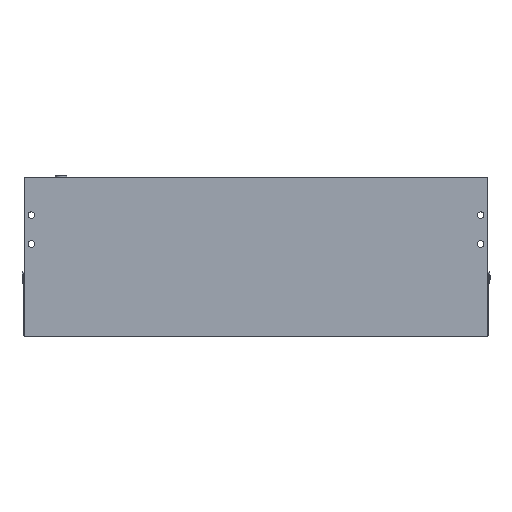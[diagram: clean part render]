
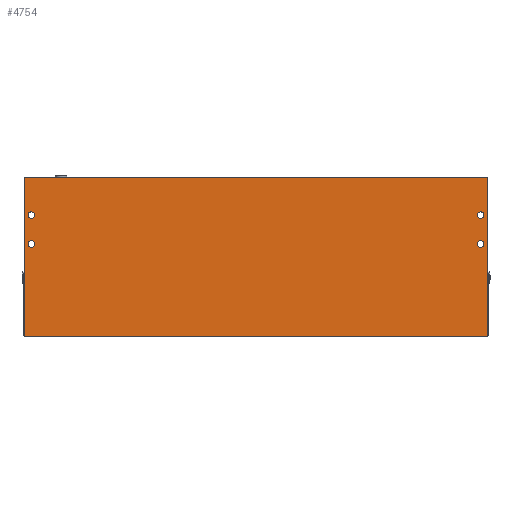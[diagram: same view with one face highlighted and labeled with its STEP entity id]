
A CAD part, front view. The second image highlights one B-rep face of the part: STEP entity #4754.
In plain terms, the highlighted planar face has unit normal (0, -1, 0).
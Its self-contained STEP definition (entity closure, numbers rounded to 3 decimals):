
#117 = CARTESIAN_POINT ( 'NONE',  ( 0., 0., 0. ) ) ;
#770 = LINE ( 'NONE', #5164, #2064 ) ;
#888 = CIRCLE ( 'NONE', #5756, 2.25 ) ;
#1144 = DIRECTION ( 'NONE',  ( 0., 1., 0. ) ) ;
#1321 = VERTEX_POINT ( 'NONE', #8307 ) ;
#1645 = ORIENTED_EDGE ( 'NONE', *, *, #11712, .F. ) ;
#1690 = VERTEX_POINT ( 'NONE', #2545 ) ;
#1730 = FACE_BOUND ( 'NONE', #13627, .T. ) ;
#1869 = AXIS2_PLACEMENT_3D ( 'NONE', #6411, #17883, #4777 ) ;
#2064 = VECTOR ( 'NONE', #17648, 1000. ) ;
#2121 = AXIS2_PLACEMENT_3D ( 'NONE', #117, #4786, #12154 ) ;
#2355 = LINE ( 'NONE', #18508, #15216 ) ;
#2371 = EDGE_CURVE ( 'NONE', #7792, #1690, #14119, .T. ) ;
#2474 = CIRCLE ( 'NONE', #11352, 2.25 ) ;
#2545 = CARTESIAN_POINT ( 'NONE',  ( 315., 0., -28.25 ) ) ;
#2707 = ORIENTED_EDGE ( 'NONE', *, *, #8025, .T. ) ;
#2777 = CIRCLE ( 'NONE', #7667, 2.25 ) ;
#3059 = EDGE_CURVE ( 'NONE', #7149, #10749, #770, .T. ) ;
#3660 = CARTESIAN_POINT ( 'NONE',  ( 320., 0., -110. ) ) ;
#3784 = EDGE_LOOP ( 'NONE', ( #4841, #11137 ) ) ;
#3846 = CARTESIAN_POINT ( 'NONE',  ( 315., 0., -43.75 ) ) ;
#3876 = CARTESIAN_POINT ( 'NONE',  ( 0., 0., -110. ) ) ;
#4109 = AXIS2_PLACEMENT_3D ( 'NONE', #14191, #13125, #15820 ) ;
#4161 = VERTEX_POINT ( 'NONE', #17486 ) ;
#4595 = FACE_BOUND ( 'NONE', #14708, .T. ) ;
#4613 = CARTESIAN_POINT ( 'NONE',  ( 315., 0., -26. ) ) ;
#4754 = ADVANCED_FACE ( 'NONE', ( #10437, #5937, #1730, #4595, #8910 ), #10625, .F. ) ;
#4777 = DIRECTION ( 'NONE',  ( 1., 0., 0. ) ) ;
#4786 = DIRECTION ( 'NONE',  ( 0., 1., 0. ) ) ;
#4841 = ORIENTED_EDGE ( 'NONE', *, *, #5018, .T. ) ;
#5018 = EDGE_CURVE ( 'NONE', #16822, #11642, #17238, .T. ) ;
#5029 = ORIENTED_EDGE ( 'NONE', *, *, #3059, .F. ) ;
#5090 = DIRECTION ( 'NONE',  ( 0., 1., 0. ) ) ;
#5164 = CARTESIAN_POINT ( 'NONE',  ( 0., 0., -110. ) ) ;
#5222 = DIRECTION ( 'NONE',  ( 1., 0., 0. ) ) ;
#5470 = ORIENTED_EDGE ( 'NONE', *, *, #2371, .T. ) ;
#5551 = CARTESIAN_POINT ( 'NONE',  ( 315., 0., -46. ) ) ;
#5732 = EDGE_CURVE ( 'NONE', #9588, #1321, #6371, .T. ) ;
#5756 = AXIS2_PLACEMENT_3D ( 'NONE', #6113, #13010, #14733 ) ;
#5867 = AXIS2_PLACEMENT_3D ( 'NONE', #15141, #5090, #13705 ) ;
#5937 = FACE_BOUND ( 'NONE', #3784, .T. ) ;
#6113 = CARTESIAN_POINT ( 'NONE',  ( 5., 0., -26. ) ) ;
#6238 = CARTESIAN_POINT ( 'NONE',  ( 5., 0., -48.25 ) ) ;
#6250 = DIRECTION ( 'NONE',  ( 0., 1., 0. ) ) ;
#6371 = LINE ( 'NONE', #15363, #12050 ) ;
#6411 = CARTESIAN_POINT ( 'NONE',  ( 5., 0., -46. ) ) ;
#7149 = VERTEX_POINT ( 'NONE', #3876 ) ;
#7153 = AXIS2_PLACEMENT_3D ( 'NONE', #8598, #1144, #15875 ) ;
#7374 = VECTOR ( 'NONE', #9499, 1000. ) ;
#7667 = AXIS2_PLACEMENT_3D ( 'NONE', #4613, #6250, #12081 ) ;
#7772 = AXIS2_PLACEMENT_3D ( 'NONE', #5551, #18838, #11497 ) ;
#7792 = VERTEX_POINT ( 'NONE', #7861 ) ;
#7861 = CARTESIAN_POINT ( 'NONE',  ( 315., 0., -23.75 ) ) ;
#8025 = EDGE_CURVE ( 'NONE', #4161, #18089, #888, .T. ) ;
#8307 = CARTESIAN_POINT ( 'NONE',  ( 320., 0., -110. ) ) ;
#8598 = CARTESIAN_POINT ( 'NONE',  ( 315., 0., -46. ) ) ;
#8910 = FACE_OUTER_BOUND ( 'NONE', #15827, .T. ) ;
#8965 = ORIENTED_EDGE ( 'NONE', *, *, #11463, .T. ) ;
#9116 = CARTESIAN_POINT ( 'NONE',  ( 5., 0., -46. ) ) ;
#9455 = EDGE_CURVE ( 'NONE', #10749, #9588, #2355, .T. ) ;
#9499 = DIRECTION ( 'NONE',  ( -1., 0., 0. ) ) ;
#9588 = VERTEX_POINT ( 'NONE', #17551 ) ;
#9826 = CARTESIAN_POINT ( 'NONE',  ( 0., 0., 0. ) ) ;
#10168 = ORIENTED_EDGE ( 'NONE', *, *, #17339, .T. ) ;
#10172 = CARTESIAN_POINT ( 'NONE',  ( 315., 0., -48.25 ) ) ;
#10227 = ORIENTED_EDGE ( 'NONE', *, *, #9455, .F. ) ;
#10437 = FACE_BOUND ( 'NONE', #18313, .T. ) ;
#10625 = PLANE ( 'NONE',  #2121 ) ;
#10721 = ORIENTED_EDGE ( 'NONE', *, *, #5732, .F. ) ;
#10749 = VERTEX_POINT ( 'NONE', #9826 ) ;
#10935 = LINE ( 'NONE', #3660, #7374 ) ;
#11137 = ORIENTED_EDGE ( 'NONE', *, *, #13332, .T. ) ;
#11352 = AXIS2_PLACEMENT_3D ( 'NONE', #9116, #13709, #17908 ) ;
#11463 = EDGE_CURVE ( 'NONE', #15762, #14892, #2474, .T. ) ;
#11497 = DIRECTION ( 'NONE',  ( 1., 0., 0. ) ) ;
#11556 = EDGE_CURVE ( 'NONE', #1690, #7792, #2777, .T. ) ;
#11642 = VERTEX_POINT ( 'NONE', #3846 ) ;
#11712 = EDGE_CURVE ( 'NONE', #1321, #7149, #10935, .T. ) ;
#12050 = VECTOR ( 'NONE', #16710, 1000. ) ;
#12081 = DIRECTION ( 'NONE',  ( 1., 0., 0. ) ) ;
#12154 = DIRECTION ( 'NONE',  ( 1., 0., 0. ) ) ;
#13010 = DIRECTION ( 'NONE',  ( 0., 1., 0. ) ) ;
#13125 = DIRECTION ( 'NONE',  ( 0., 1., 0. ) ) ;
#13211 = CARTESIAN_POINT ( 'NONE',  ( 5., 0., -43.75 ) ) ;
#13332 = EDGE_CURVE ( 'NONE', #11642, #16822, #15403, .T. ) ;
#13627 = EDGE_LOOP ( 'NONE', ( #2707, #17912 ) ) ;
#13705 = DIRECTION ( 'NONE',  ( 1., 0., 0. ) ) ;
#13709 = DIRECTION ( 'NONE',  ( 0., 1., 0. ) ) ;
#14119 = CIRCLE ( 'NONE', #5867, 2.25 ) ;
#14191 = CARTESIAN_POINT ( 'NONE',  ( 5., 0., -26. ) ) ;
#14708 = EDGE_LOOP ( 'NONE', ( #8965, #10168 ) ) ;
#14733 = DIRECTION ( 'NONE',  ( 1., 0., 0. ) ) ;
#14892 = VERTEX_POINT ( 'NONE', #13211 ) ;
#15141 = CARTESIAN_POINT ( 'NONE',  ( 315., 0., -26. ) ) ;
#15216 = VECTOR ( 'NONE', #5222, 1000. ) ;
#15363 = CARTESIAN_POINT ( 'NONE',  ( 320., 0., 0. ) ) ;
#15403 = CIRCLE ( 'NONE', #7772, 2.25 ) ;
#15496 = EDGE_CURVE ( 'NONE', #18089, #4161, #17851, .T. ) ;
#15762 = VERTEX_POINT ( 'NONE', #6238 ) ;
#15820 = DIRECTION ( 'NONE',  ( 1., 0., 0. ) ) ;
#15827 = EDGE_LOOP ( 'NONE', ( #1645, #10721, #10227, #5029 ) ) ;
#15875 = DIRECTION ( 'NONE',  ( 1., 0., 0. ) ) ;
#16564 = CARTESIAN_POINT ( 'NONE',  ( 5., 0., -23.75 ) ) ;
#16710 = DIRECTION ( 'NONE',  ( 0., 0., -1. ) ) ;
#16822 = VERTEX_POINT ( 'NONE', #10172 ) ;
#16845 = CIRCLE ( 'NONE', #1869, 2.25 ) ;
#17119 = ORIENTED_EDGE ( 'NONE', *, *, #11556, .T. ) ;
#17238 = CIRCLE ( 'NONE', #7153, 2.25 ) ;
#17339 = EDGE_CURVE ( 'NONE', #14892, #15762, #16845, .T. ) ;
#17486 = CARTESIAN_POINT ( 'NONE',  ( 5., 0., -28.25 ) ) ;
#17551 = CARTESIAN_POINT ( 'NONE',  ( 320., 0., 0. ) ) ;
#17648 = DIRECTION ( 'NONE',  ( 0., 0., 1. ) ) ;
#17851 = CIRCLE ( 'NONE', #4109, 2.25 ) ;
#17883 = DIRECTION ( 'NONE',  ( 0., 1., 0. ) ) ;
#17908 = DIRECTION ( 'NONE',  ( 1., 0., 0. ) ) ;
#17912 = ORIENTED_EDGE ( 'NONE', *, *, #15496, .T. ) ;
#18089 = VERTEX_POINT ( 'NONE', #16564 ) ;
#18313 = EDGE_LOOP ( 'NONE', ( #17119, #5470 ) ) ;
#18508 = CARTESIAN_POINT ( 'NONE',  ( 0., 0., 0. ) ) ;
#18838 = DIRECTION ( 'NONE',  ( 0., 1., 0. ) ) ;
